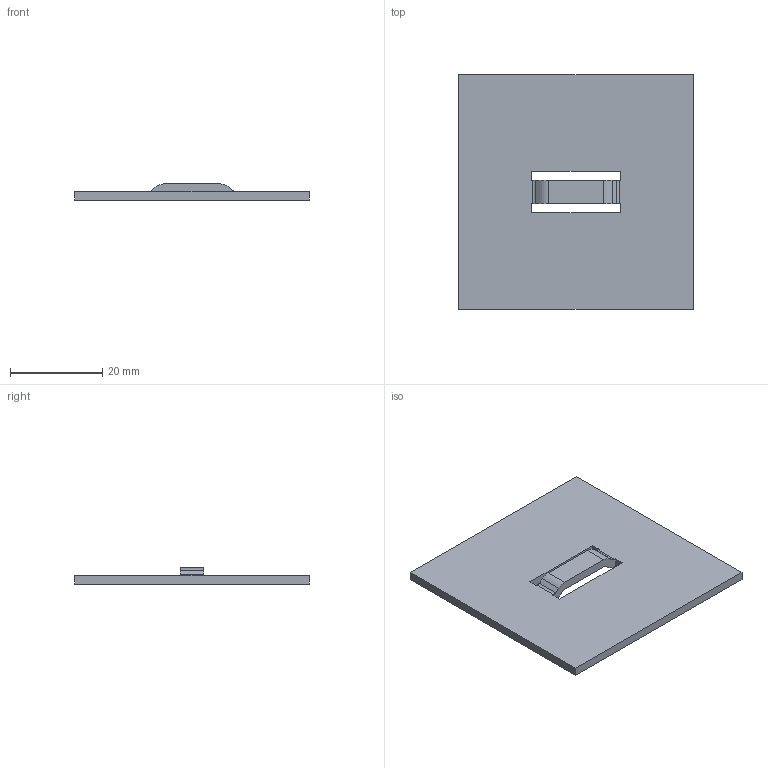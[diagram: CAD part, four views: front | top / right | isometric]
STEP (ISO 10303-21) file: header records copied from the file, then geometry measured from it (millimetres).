
FILE_DESCRIPTION((''),'1');
FILE_NAME('C:/Users/robertnolte/Desktop/WT#A-S114403-0068.stp','2012-03-28T18:04:24',(''),(''),'Spatial Interop R21 SP3','Kubotek KeyCreator 2011 V10.5.0 (24766)',' ');
FILE_SCHEMA(('CONFIG_CONTROL_DESIGN'));
Length unit declared in the file: inch
Products named in the file (1): 1
Bounding box: 50.8 x 50.77 x 3.51 mm (x, y, z)
Volume: 4773.5 mm3; surface area: 5564 mm2
Topology: 1 solids, 1 shells, 28 faces, 84 edges, 56 vertices
Faces by surface type: plane 20, cylinder 8
Entity records: 996 total; most frequent: CARTESIAN_POINT 169, ORIENTED_EDGE 168, DIRECTION 158, EDGE_CURVE 84, LINE 68, VECTOR 68, VERTEX_POINT 56, AXIS2_PLACEMENT_3D 45
